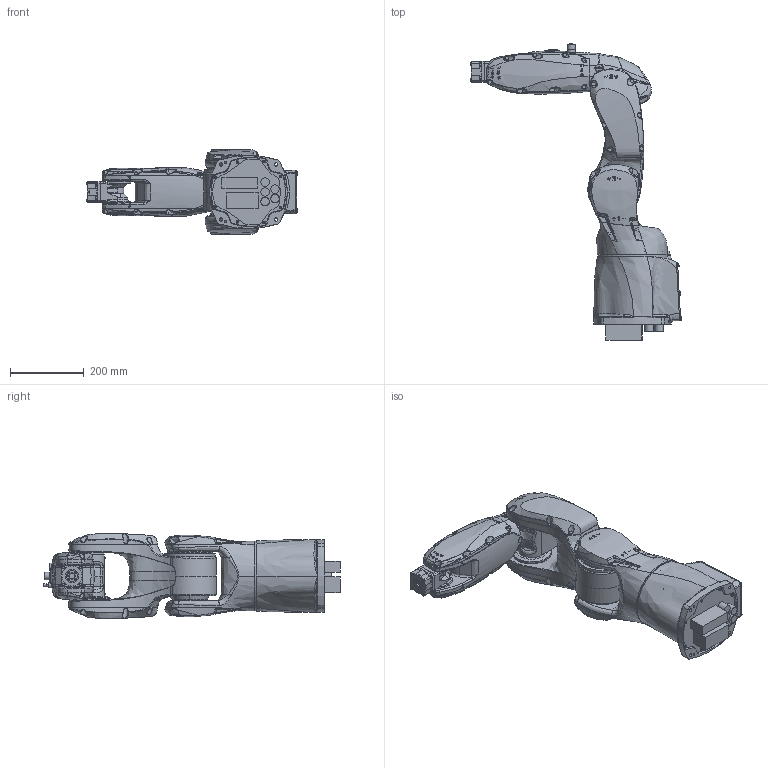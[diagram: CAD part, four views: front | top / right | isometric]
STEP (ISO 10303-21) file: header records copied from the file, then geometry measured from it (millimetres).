
FILE_DESCRIPTION (( 'STEP AP214' ), '1' );
FILE_NAME ('Racer5-0.63 SE (3D-STEP).STEP', '2022-03-31T13:03:50', ( '' ), ( '' ), 'SwSTEP 2.0', 'SolidWorks 2020', '' );
FILE_SCHEMA (( 'AUTOMOTIVE_DESIGN' ));
Length unit declared in the file: millimetre
Products named in the file (8): Racer5-0.63 SE_p06; Racer5-0.63 SE (3D-STEP); Racer5-0.63 SE_p04; Racer5-0.63 SE_p05; Racer5-0.63 SE_p07; Racer5-0.63 SE_p02; Racer5-0.63 SE_p01; Racer5-0.63 SE_p03
Assembly tree (7 placements, depth 2):
  Racer5-0.63 SE (3D-STEP)
    Racer5-0.63 SE_p01
    Racer5-0.63 SE_p02
    Racer5-0.63 SE_p03
    Racer5-0.63 SE_p04
    Racer5-0.63 SE_p05
    Racer5-0.63 SE_p06
    Racer5-0.63 SE_p07
Bounding box: 574.79 x 804.5 x 230.27 mm (x, y, z)
Volume: 10176093.6 mm3; surface area: 1915106.5 mm2
Topology: 30 solids, 35 shells, 3645 faces, 9244 edges, 5810 vertices
Faces by surface type: bspline 1433, plane 1037, cylinder 818, cone 183, torus 171, sphere 3
Full cylindrical faces by diameter (mm): 1.5 x1, 1.6 x4, 2 x2, 3.3 x20, 4 x13, 4.2 x6, 4.3 x8, 4.5 x4, 5 x6, 5.2 x2, 5.5 x34, 6 x3, 6.5 x1, 7 x14, 8 x11, 9 x4, 9.7 x1, 10 x2, 10.2 x7, 11 x16, 12 x1, 13 x1, 14 x1, 15 x2, 16 x1, 17 x2, 18 x1, 18.4 x1, 19 x1, 19.403 x1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
Entity records: 469701 total; most frequent: CARTESIAN_POINT 395555, ORIENTED_EDGE 17552, DIRECTION 10837, EDGE_CURVE 8776, VERTEX_POINT 5699, AXIS2_PLACEMENT_3D 4312, B_SPLINE_CURVE_WITH_KNOTS 4243, EDGE_LOOP 4243
